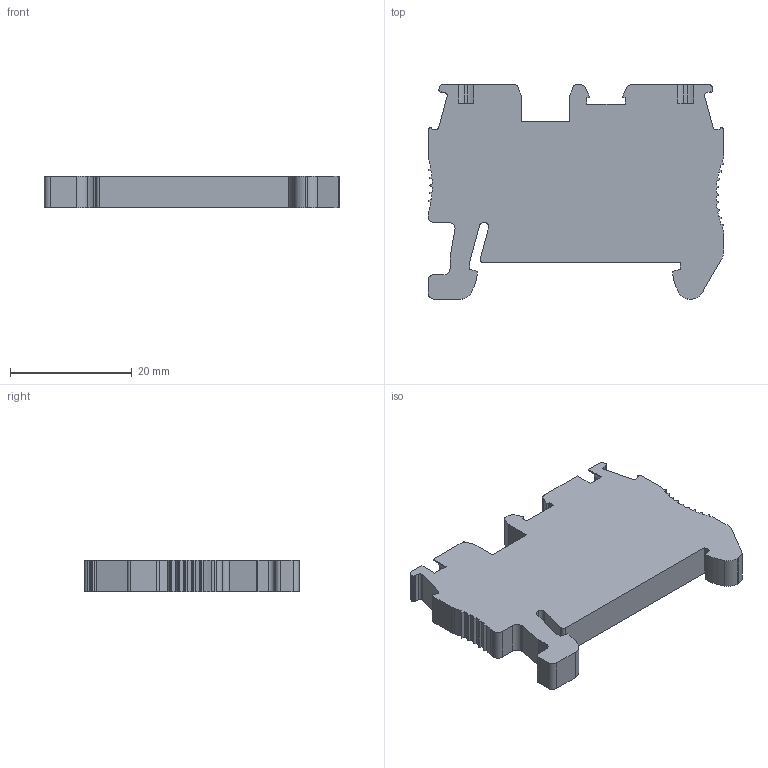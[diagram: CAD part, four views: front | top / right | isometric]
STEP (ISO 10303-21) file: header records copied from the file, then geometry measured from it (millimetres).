
FILE_DESCRIPTION(/* description */ (''),/* implementation_level */ '2;1');
FILE_NAME(/* name */ '815201_MTS_2.5.stp',/* time_stamp */ '2019-03-14T15:20:52+08:00',/* author */ (''),/* organization */ (''),/* preprocessor_version */ 'ST-DEVELOPER v11',/* originating_system */ 'SIEMENS UGS NX 6.0',/* authorisation */ '');
FILE_SCHEMA (('AUTOMOTIVE_DESIGN { 1 0 10303 214 1 1 1 1 }'));
Length unit declared in the file: millimetre
Products named in the file (2): 3031212_st25_select81680; 3031212_st25_select_stp
Assembly tree (1 placements, depth 2):
  3031212_st25_select_stp
    3031212_st25_select81680
Bounding box: 48.63 x 35.25 x 5.15 mm (x, y, z)
Volume: 6592.4 mm3; surface area: 4063.2 mm2
Topology: 1 solids, 1 shells, 211 faces, 621 edges, 414 vertices
Faces by surface type: plane 108, cylinder 103
Entity records: 8601 total; most frequent: DIRECTION 1253, CARTESIAN_POINT 1248, ORIENTED_EDGE 1242, EDGE_CURVE 621, AXIS2_PLACEMENT_3D 419, LINE 415, VECTOR 415, VERTEX_POINT 414
